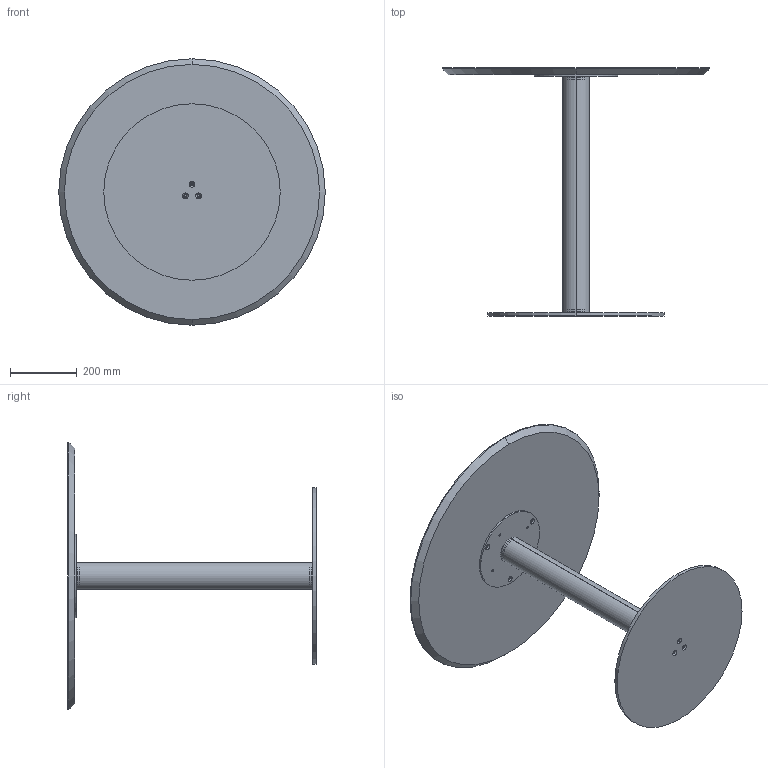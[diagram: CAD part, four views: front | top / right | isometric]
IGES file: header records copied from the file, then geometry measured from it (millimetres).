
Start section: SolidWorks IGES file using analytic representation for surfaces
Global section: file name: Y:\eforma\TECNICO\SOLIDWORKS\E-FORMA\5-TAVOLINI BISTRO\CILINDRO BISTRÒ\02 parts\CB25W.IGS; native system: SolidWorks 2022; preprocessor: SolidWorks 2022; author: eforma.tech; date: 240808.102740; units: millimetre
Bounding box: 800 x 745 x 800 mm (x, y, z)
Volume: 12528852.7 mm3; surface area: 1961116.7 mm2
Topology: 6 solids, 6 shells, 110 faces, 258 edges, 156 vertices
Faces by surface type: revolution 98, plane 12
